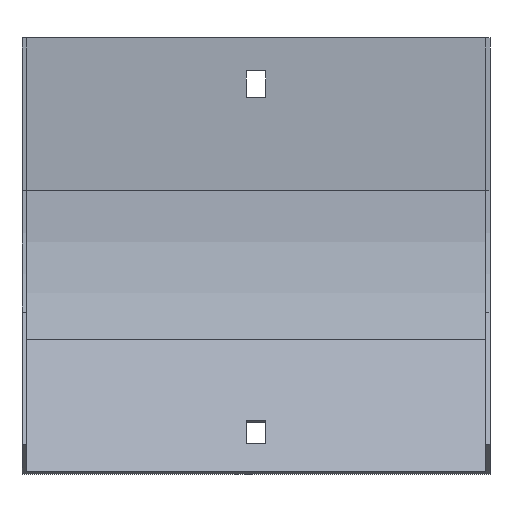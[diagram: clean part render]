
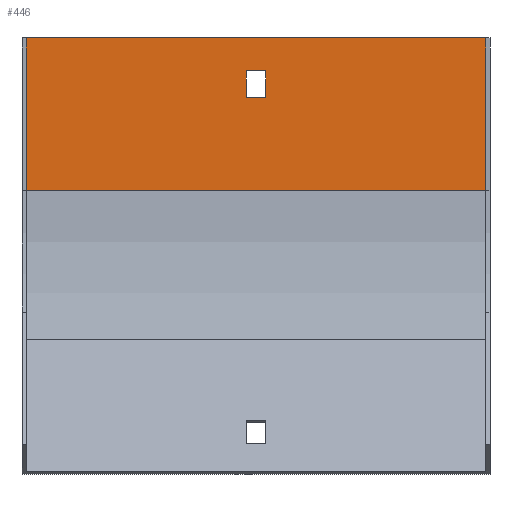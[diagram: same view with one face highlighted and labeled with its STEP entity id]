
A CAD part, front view. The second image highlights one B-rep face of the part: STEP entity #446.
In plain terms, the highlighted planar face has unit normal (0, -1, 0).
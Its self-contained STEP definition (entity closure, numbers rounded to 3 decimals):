
#9 = VERTEX_POINT ( 'NONE', #593 ) ;
#22 = LINE ( 'NONE', #285, #827 ) ;
#51 = DIRECTION ( 'NONE',  ( -1., 0., 0. ) ) ;
#57 = FACE_OUTER_BOUND ( 'NONE', #174, .T. ) ;
#61 = CARTESIAN_POINT ( 'NONE',  ( 77., -1.5, -51.2 ) ) ;
#65 = LINE ( 'NONE', #325, #117 ) ;
#98 = VERTEX_POINT ( 'NONE', #855 ) ;
#107 = CARTESIAN_POINT ( 'NONE',  ( 78.5, -1.5, -11. ) ) ;
#117 = VECTOR ( 'NONE', #652, 1000. ) ;
#119 = VERTEX_POINT ( 'NONE', #182 ) ;
#124 = DIRECTION ( 'NONE',  ( 0., 0., -1. ) ) ;
#139 = VERTEX_POINT ( 'NONE', #145 ) ;
#145 = CARTESIAN_POINT ( 'NONE',  ( 3.25, -1.5, -20. ) ) ;
#165 = EDGE_CURVE ( 'NONE', #139, #119, #22, .T. ) ;
#166 = LINE ( 'NONE', #107, #813 ) ;
#174 = EDGE_LOOP ( 'NONE', ( #362, #556, #814, #242 ) ) ;
#177 = CARTESIAN_POINT ( 'NONE',  ( -77., -1.5, -51.2 ) ) ;
#179 = EDGE_CURVE ( 'NONE', #812, #629, #355, .T. ) ;
#182 = CARTESIAN_POINT ( 'NONE',  ( 3.25, -1.5, -11. ) ) ;
#185 = LINE ( 'NONE', #532, #266 ) ;
#202 = CARTESIAN_POINT ( 'NONE',  ( -77., -1.5, -51.2 ) ) ;
#204 = DIRECTION ( 'NONE',  ( 0., 0., 1. ) ) ;
#242 = ORIENTED_EDGE ( 'NONE', *, *, #453, .T. ) ;
#243 = CARTESIAN_POINT ( 'NONE',  ( 77., -1.5, -51.2 ) ) ;
#266 = VECTOR ( 'NONE', #582, 1000. ) ;
#285 = CARTESIAN_POINT ( 'NONE',  ( 3.25, -1.5, 0. ) ) ;
#307 = FACE_BOUND ( 'NONE', #542, .T. ) ;
#323 = ORIENTED_EDGE ( 'NONE', *, *, #165, .F. ) ;
#325 = CARTESIAN_POINT ( 'NONE',  ( -3.25, -1.5, 0. ) ) ;
#328 = VECTOR ( 'NONE', #686, 1000. ) ;
#341 = VECTOR ( 'NONE', #619, 1000. ) ;
#355 = LINE ( 'NONE', #202, #341 ) ;
#362 = ORIENTED_EDGE ( 'NONE', *, *, #179, .F. ) ;
#374 = DIRECTION ( 'NONE',  ( -1., 0., 0. ) ) ;
#390 = VERTEX_POINT ( 'NONE', #243 ) ;
#410 = EDGE_CURVE ( 'NONE', #390, #812, #529, .T. ) ;
#446 = ADVANCED_FACE ( 'NONE', ( #307, #57 ), #720, .T. ) ;
#453 = EDGE_CURVE ( 'NONE', #9, #629, #185, .T. ) ;
#478 = EDGE_CURVE ( 'NONE', #520, #98, #65, .T. ) ;
#497 = LINE ( 'NONE', #745, #328 ) ;
#520 = VERTEX_POINT ( 'NONE', #618 ) ;
#526 = DIRECTION ( 'NONE',  ( 0., 0., 1. ) ) ;
#528 = EDGE_CURVE ( 'NONE', #390, #9, #851, .T. ) ;
#529 = LINE ( 'NONE', #773, #831 ) ;
#532 = CARTESIAN_POINT ( 'NONE',  ( 78.5, -1.5, 0. ) ) ;
#542 = EDGE_LOOP ( 'NONE', ( #786, #804, #323, #610 ) ) ;
#556 = ORIENTED_EDGE ( 'NONE', *, *, #410, .F. ) ;
#582 = DIRECTION ( 'NONE',  ( -1., 0., 0. ) ) ;
#588 = CARTESIAN_POINT ( 'NONE',  ( 78.5, -1.5, 0. ) ) ;
#593 = CARTESIAN_POINT ( 'NONE',  ( 77., -1.5, 0. ) ) ;
#610 = ORIENTED_EDGE ( 'NONE', *, *, #695, .F. ) ;
#618 = CARTESIAN_POINT ( 'NONE',  ( -3.25, -1.5, -11. ) ) ;
#619 = DIRECTION ( 'NONE',  ( 0., 0., 1. ) ) ;
#629 = VERTEX_POINT ( 'NONE', #801 ) ;
#639 = VECTOR ( 'NONE', #526, 1000. ) ;
#652 = DIRECTION ( 'NONE',  ( 0., 0., -1. ) ) ;
#686 = DIRECTION ( 'NONE',  ( 1., 0., 0. ) ) ;
#695 = EDGE_CURVE ( 'NONE', #98, #139, #497, .T. ) ;
#712 = EDGE_CURVE ( 'NONE', #119, #520, #166, .T. ) ;
#720 = PLANE ( 'NONE',  #763 ) ;
#745 = CARTESIAN_POINT ( 'NONE',  ( 78.5, -1.5, -20. ) ) ;
#763 = AXIS2_PLACEMENT_3D ( 'NONE', #588, #850, #124 ) ;
#773 = CARTESIAN_POINT ( 'NONE',  ( 78.5, -1.5, -51.2 ) ) ;
#786 = ORIENTED_EDGE ( 'NONE', *, *, #478, .F. ) ;
#801 = CARTESIAN_POINT ( 'NONE',  ( -77., -1.5, 0. ) ) ;
#804 = ORIENTED_EDGE ( 'NONE', *, *, #712, .F. ) ;
#812 = VERTEX_POINT ( 'NONE', #177 ) ;
#813 = VECTOR ( 'NONE', #374, 1000. ) ;
#814 = ORIENTED_EDGE ( 'NONE', *, *, #528, .T. ) ;
#827 = VECTOR ( 'NONE', #204, 1000. ) ;
#831 = VECTOR ( 'NONE', #51, 1000. ) ;
#850 = DIRECTION ( 'NONE',  ( 0., -1., 0. ) ) ;
#851 = LINE ( 'NONE', #61, #639 ) ;
#855 = CARTESIAN_POINT ( 'NONE',  ( -3.25, -1.5, -20. ) ) ;
